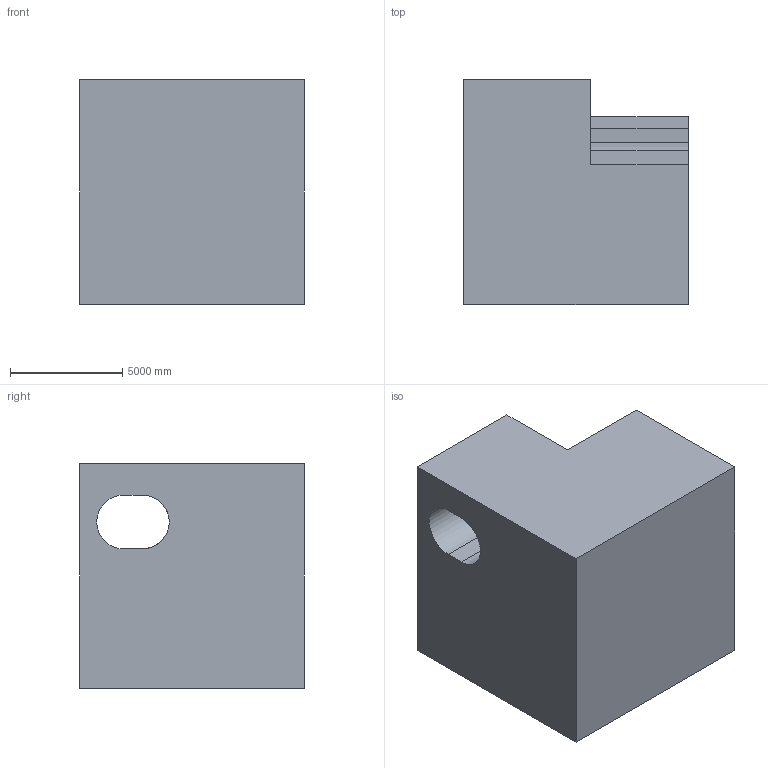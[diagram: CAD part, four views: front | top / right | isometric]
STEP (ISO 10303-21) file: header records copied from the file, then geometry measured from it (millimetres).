
FILE_DESCRIPTION (( 'STEP AP203' ), '1' );
FILE_NAME ('117.STEP', '2022-09-06T15:07:28', ( 'user' ), ( '' ), 'SwSTEP 2.0', 'SolidWorks 2021', '' );
FILE_SCHEMA (( 'CONFIG_CONTROL_DESIGN' ));
Length unit declared in the file: centimetre
Products named in the file (1): 117
Bounding box: 10000 x 10000 x 10000 mm (x, y, z)
Volume: 833842190870.4 mm3; surface area: 616046444 mm2
Topology: 1 solids, 1 shells, 14 faces, 39 edges, 26 vertices
Faces by surface type: plane 12, cylinder 2
Entity records: 529 total; most frequent: CARTESIAN_POINT 80, ORIENTED_EDGE 78, DIRECTION 74, EDGE_CURVE 39, VECTOR 34, LINE 34, VERTEX_POINT 26, AXIS2_PLACEMENT_3D 20
